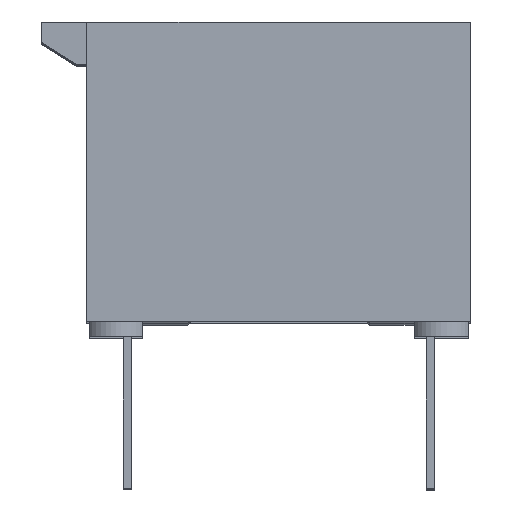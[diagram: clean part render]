
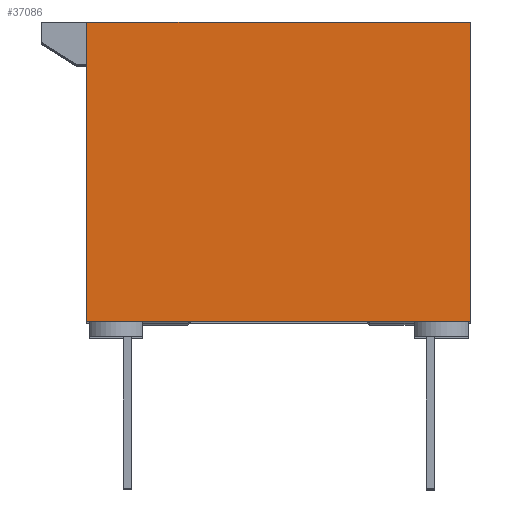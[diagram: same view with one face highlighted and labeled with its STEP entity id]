
A CAD part, top view. The second image highlights one B-rep face of the part: STEP entity #37086.
In plain terms, the highlighted planar face has unit normal (0, 0, 1).
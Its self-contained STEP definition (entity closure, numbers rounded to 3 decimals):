
#337 = DIRECTION ( 'NONE',  ( -1., 0., 0. ) ) ;
#1137 = PLANE ( 'NONE',  #35158 ) ;
#1216 = CARTESIAN_POINT ( 'NONE',  ( 4.763, 0., 0. ) ) ;
#1729 = ORIENTED_EDGE ( 'NONE', *, *, #34832, .T. ) ;
#4679 = EDGE_CURVE ( 'NONE', #33520, #35003, #38062, .T. ) ;
#4763 = LINE ( 'NONE', #38910, #11803 ) ;
#4821 = VECTOR ( 'NONE', #34160, 1000. ) ;
#5238 = ORIENTED_EDGE ( 'NONE', *, *, #29432, .T. ) ;
#5774 = VECTOR ( 'NONE', #31906, 1000. ) ;
#6827 = EDGE_CURVE ( 'NONE', #34403, #14511, #4763, .T. ) ;
#8374 = DIRECTION ( 'NONE',  ( 0., 1., 0. ) ) ;
#9292 = LINE ( 'NONE', #12300, #23797 ) ;
#10096 = LINE ( 'NONE', #25563, #35692 ) ;
#10150 = ORIENTED_EDGE ( 'NONE', *, *, #13986, .T. ) ;
#11803 = VECTOR ( 'NONE', #8374, 1000. ) ;
#12300 = CARTESIAN_POINT ( 'NONE',  ( 4.763, 7.518, 0. ) ) ;
#12681 = LINE ( 'NONE', #30966, #4821 ) ;
#13383 = DIRECTION ( 'NONE',  ( 0., 0., -1. ) ) ;
#13948 = CARTESIAN_POINT ( 'NONE',  ( 4.763, 7.518, 0. ) ) ;
#13986 = EDGE_CURVE ( 'NONE', #35003, #18465, #35127, .T. ) ;
#14511 = VERTEX_POINT ( 'NONE', #13948 ) ;
#14568 = VECTOR ( 'NONE', #33022, 1000. ) ;
#14733 = CARTESIAN_POINT ( 'NONE',  ( -4.889, 0., 0. ) ) ;
#15934 = EDGE_CURVE ( 'NONE', #14511, #29452, #9292, .T. ) ;
#18465 = VERTEX_POINT ( 'NONE', #37527 ) ;
#19142 = ORIENTED_EDGE ( 'NONE', *, *, #15934, .T. ) ;
#19727 = DIRECTION ( 'NONE',  ( 1., 0., 0. ) ) ;
#23797 = VECTOR ( 'NONE', #24556, 1000. ) ;
#24556 = DIRECTION ( 'NONE',  ( -1., 0., 0. ) ) ;
#25234 = FACE_OUTER_BOUND ( 'NONE', #33080, .T. ) ;
#25563 = CARTESIAN_POINT ( 'NONE',  ( -4.407, 0., 0. ) ) ;
#29432 = EDGE_CURVE ( 'NONE', #18465, #34403, #10096, .T. ) ;
#29452 = VERTEX_POINT ( 'NONE', #32973 ) ;
#30966 = CARTESIAN_POINT ( 'NONE',  ( -4.889, 0., 0. ) ) ;
#31906 = DIRECTION ( 'NONE',  ( 1., 0., 0. ) ) ;
#32303 = ORIENTED_EDGE ( 'NONE', *, *, #4679, .T. ) ;
#32312 = CARTESIAN_POINT ( 'NONE',  ( -4.407, 0., 0. ) ) ;
#32938 = CARTESIAN_POINT ( 'NONE',  ( -4.153, 0., 0. ) ) ;
#32973 = CARTESIAN_POINT ( 'NONE',  ( -4.89, 7.518, 0. ) ) ;
#33022 = DIRECTION ( 'NONE',  ( 1., 0., 0. ) ) ;
#33080 = EDGE_LOOP ( 'NONE', ( #19142, #1729, #32303, #10150, #5238, #39565 ) ) ;
#33520 = VERTEX_POINT ( 'NONE', #14733 ) ;
#34160 = DIRECTION ( 'NONE',  ( 0., -1., 0. ) ) ;
#34403 = VERTEX_POINT ( 'NONE', #1216 ) ;
#34832 = EDGE_CURVE ( 'NONE', #29452, #33520, #12681, .T. ) ;
#35003 = VERTEX_POINT ( 'NONE', #32938 ) ;
#35054 = CARTESIAN_POINT ( 'NONE',  ( -4.407, 0., 0. ) ) ;
#35127 = LINE ( 'NONE', #32312, #5774 ) ;
#35158 = AXIS2_PLACEMENT_3D ( 'NONE', #37666, #13383, #337 ) ;
#35692 = VECTOR ( 'NONE', #19727, 1000. ) ;
#37086 = ADVANCED_FACE ( 'NONE', ( #25234 ), #1137, .F. ) ;
#37527 = CARTESIAN_POINT ( 'NONE',  ( 4.026, 0., 0. ) ) ;
#37666 = CARTESIAN_POINT ( 'NONE',  ( -4.889, 0., 0. ) ) ;
#38062 = LINE ( 'NONE', #35054, #14568 ) ;
#38910 = CARTESIAN_POINT ( 'NONE',  ( 4.763, 0., 0. ) ) ;
#39565 = ORIENTED_EDGE ( 'NONE', *, *, #6827, .T. ) ;
